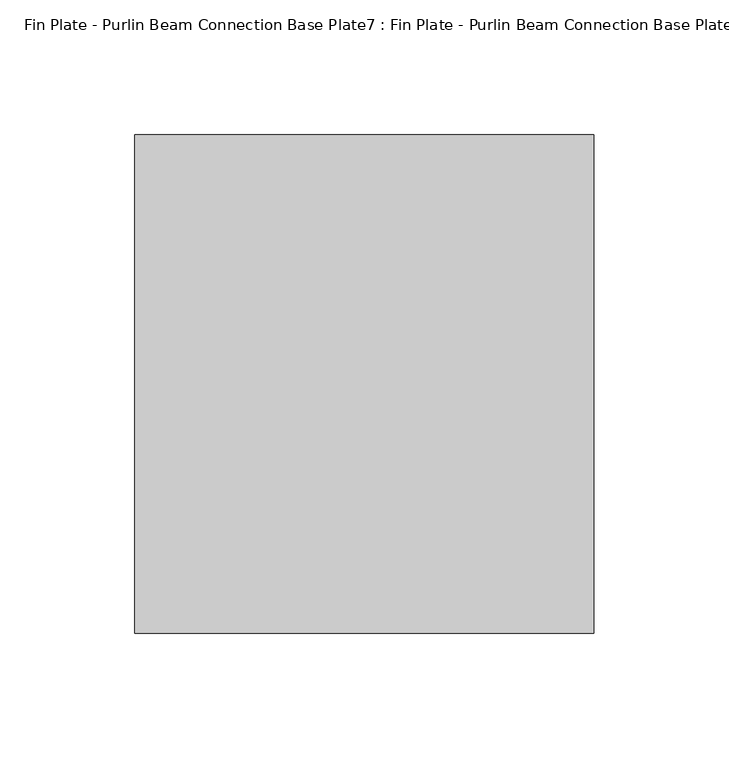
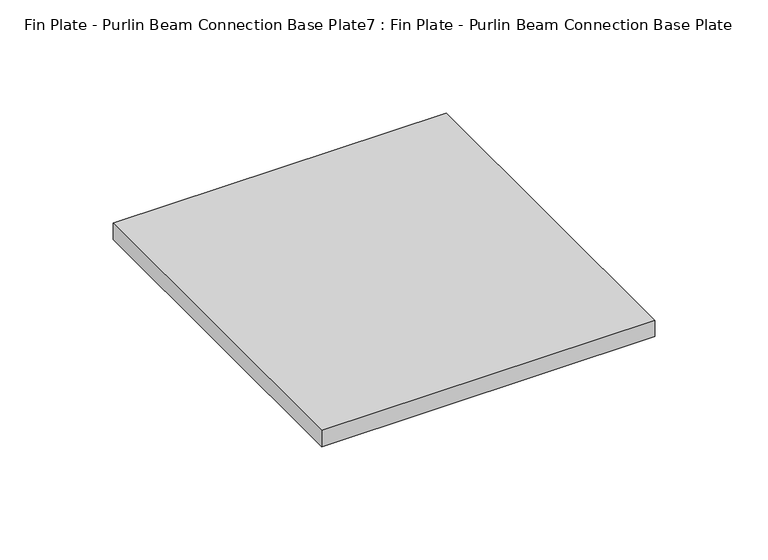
"""IFC4 building model written with IfcOpenShell, lengths in millimetres: proxy geometry, Fin Plate - Purlin Beam Connection Base Plate7 : Fin Plate - Purlin Beam Connection Base Plate."""

from ifc_helpers import new_model, si_unit, frame, origin, place, context, project, spatial, polyline, outline, extrude, source, transform, mapped, element, save


def fin_plate_purlin_beam_connection_base_plate7_fin_plate_c9cc26e2(model_context):
    return source(origin(), model_context, "Body", "SweptSolid", [
        extrude(outline(polyline([(-29526.0036256, 11129.0549517), (-29526.0036256, 11313.6549517), (-29356.0036256, 11313.6549517), (-29356.0036256, 11129.0549517), (-29526.0036256, 11129.0549517)])), frame((0.0, 0.0, 2418.1960911), z_axis=(0.0, 0.0, 1.0), x_axis=(1.0, 0.0, 0.0)), (0.0, 0.0, 1.0), 8.8039089),
    ])


if __name__ == "__main__":
    model = new_model("IFC4")
    model_context = context("Model", 3, world=origin())
    ifc_project = project(units=[si_unit("LENGTHUNIT", "METRE", prefix="MILLI")], contexts=[model_context])
    site = spatial("IfcSite", under=ifc_project)
    building = spatial("IfcBuilding", under=site)
    placement = place(None, origin())
    fin_plate_purlin_beam_connection_base_plate7_fin_plate_shape = fin_plate_purlin_beam_connection_base_plate7_fin_plate_c9cc26e2(model_context)
    element("IfcBuildingElementProxy", 1, Name="Fin Plate - Purlin Beam Connection Base Plate7 : Fin Plate - Purlin Beam Connection Base Plate", ObjectType="Fin Plate - Purlin Beam Connection Base Plate7 : Fin Plate - Purlin Beam Connection Base Plate", at=placement, inside=building, context=model_context, shape_type="MappedRepresentation", body=[
        mapped(fin_plate_purlin_beam_connection_base_plate7_fin_plate_shape, transform((0.0, 0.0, 0.0), x_axis=(1.0, 0.0, 0.0), y_axis=(0.0, 1.0, 0.0), z_axis=(0.0, 0.0, 1.0))),
    ])
    save(model, "model.ifc")
